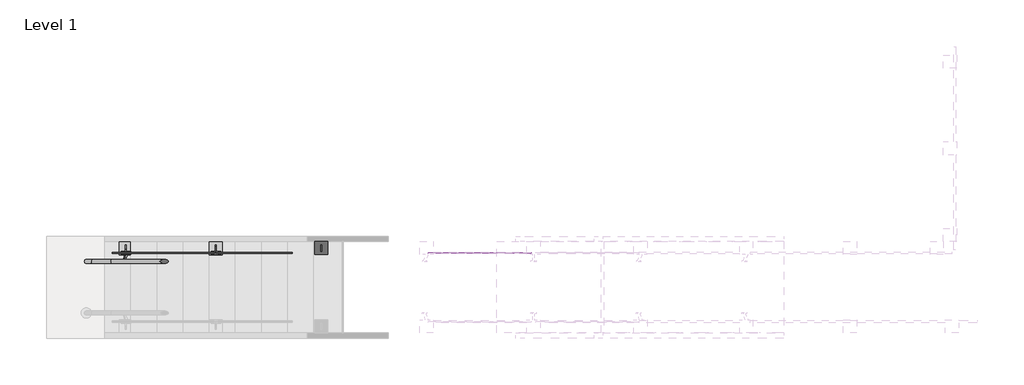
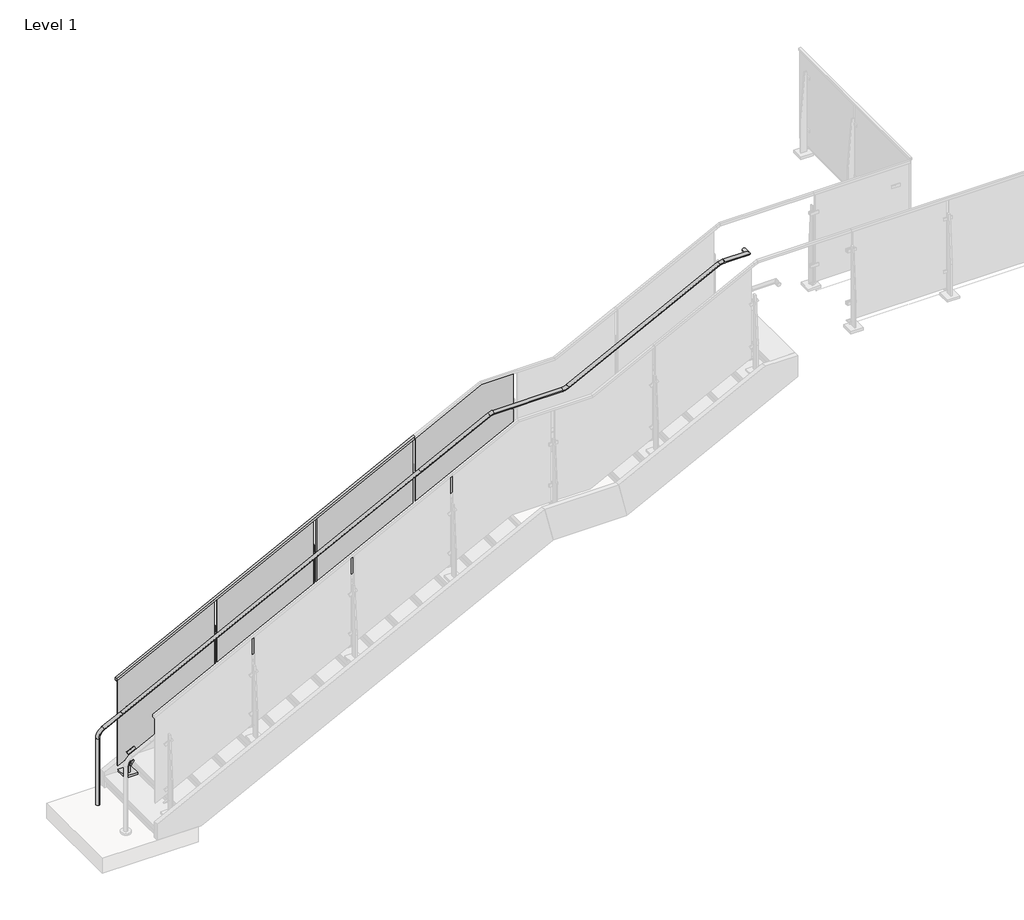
# One storey, part 24 of 37: 2 railings.
"""IFC4 building model written with IfcOpenShell, lengths in millimetres."""

from ifc_helpers import new_model, si_unit, point, frame, frame_2d, origin, place, context, project, spatial, polyline, circle_curve, ellipse_curve, trimmed, segment, composite_curve, outline, extrude, faceted_brep, transform, mapped, element, save
from ifc_brep_helpers import plane_surface, cylinder_surface, revolved_surface, advanced_brep
from components import baluster_landing_panel_viva_solo_lower_standard_glass_54ab52bf

model = new_model("IFC4")

# Units and contexts
model_context = context("Model", 3, world=origin())
ifc_project = project(units=[si_unit("LENGTHUNIT", "METRE", prefix="MILLI")], contexts=[model_context])

# Site, building, storey
site = spatial("IfcSite", under=ifc_project)
building = spatial("IfcBuilding", under=site)
storey = spatial("IfcBuildingStorey", under=building, Name="Level 1", Elevation=0.0)

# Railings
placement = place(None, origin())
baluster_landing_panel_viva_solo_lower_standard_glass_shape = baluster_landing_panel_viva_solo_lower_standard_glass_54ab52bf(model_context)
element("IfcRailing", 1, ObjectType="Baluster-Landing-Panel-VIVA-SOLO-Lower : Standard_Glass", at=placement, inside=storey, context=model_context, shape_type="MappedRepresentation", body=[
    mapped(baluster_landing_panel_viva_solo_lower_standard_glass_shape, transform((5248.4872811, 4530.172149, 2120.3478261), x_axis=(0.0, -1.0, 0.0), y_axis=(1.0, 0.0, 0.0), z_axis=(0.0, 0.0, 1.0))),
])
element("IfcRailing", 2, ObjectType="VIVA-SOLO-Glass-Floor Mount-Stair_Left_Lower", at=placement, inside=storey, context=model_context, shape_type="SolidModel", body=[
    advanced_brep(
    [(8446.9515313, 4388.884649, 3758.1697243), (8446.9515313, 4426.984649, 3758.1697243), (8720.0015313, 4388.884649, 3758.1697243), (8681.9015313, 4426.984649, 3758.1697243), (8720.0015313, 4471.434649, 3758.1697243), (8681.9015313, 4471.434649, 3758.1697243)],
    [
        (0, 1, circle_curve(frame((8446.9515313, 4407.934649, 3758.1697243), z_axis=(-1.0, 0.0, 0.0), x_axis=(0.0, 1.0, 0.0)), 19.05)),
        (1, 0, circle_curve(frame((8446.9515313, 4407.934649, 3758.1697243), z_axis=(-1.0, 0.0, 0.0), x_axis=(0.0, 1.0, 0.0)), 19.05)),
        (0, 2),
        (2, 3, ellipse_curve(frame((8700.9515313, 4407.934649, 3758.1697243), z_axis=(-0.7071067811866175, -0.7071067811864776, 0.0), x_axis=(-0.7071067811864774, 0.7071067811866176, 0.0)), 26.9407684, 19.05)),
        (3, 1),
        (3, 2, ellipse_curve(frame((8700.9515313, 4407.934649, 3758.1697243), z_axis=(-0.7071067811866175, -0.7071067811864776, 0.0), x_axis=(-0.7071067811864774, 0.7071067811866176, 0.0)), 26.9407684, 19.05)),
        (4, 5, circle_curve(frame((8700.9515313, 4471.434649, 3758.1697243), z_axis=(0.0, 1.0, 0.0), x_axis=(-1.0, 0.0, 0.0)), 19.05)),
        (5, 4, circle_curve(frame((8700.9515313, 4471.434649, 3758.1697243), z_axis=(0.0, 1.0, 0.0), x_axis=(-1.0, 0.0, 0.0)), 19.05)),
        (2, 4),
        (5, 3),
    ],
    [
        plane_surface(frame((8446.9515313, 4407.934649, 3758.1697243), z_axis=(-1.0, 0.0, 0.0), x_axis=(0.0, 0.0, 1.0))),
        cylinder_surface(frame((8446.9515313, 4407.934649, 3758.1697243), z_axis=(-1.0, 0.0, 0.0), x_axis=(0.0, 1.0, 0.0)), 19.05),
        plane_surface(frame((8700.9515313, 4471.434649, 3758.1697243), z_axis=(0.0, 1.0, 0.0), x_axis=(0.0, 0.0, 1.0))),
        cylinder_surface(frame((8700.9515313, 4407.934649, 3758.1697243), z_axis=(0.0, -1.0, 0.0), x_axis=(-1.0, 0.0, 0.0)), 19.05),
    ],
    [
        (0, [[1, 2]]),
        (1, [[-1, 3, 4, 5]]),
        (1, [[-2, -5, 6, -3]]),
        (2, [[7, 8]]),
        (3, [[-4, 9, -8, 10]]),
        (3, [[-6, -10, -7, -9]]),
    ],
),
    extrude(outline(composite_curve([segment(trimmed(circle_curve(frame_2d((1837.6886407, 4407.934649)), 50.8), [point((1837.6886407, 4458.734649))], [point((1837.6886407, 4357.134649))], False, "CARTESIAN"), True, "CONTINUOUS"), segment(trimmed(circle_curve(frame_2d((1837.6886407, 4407.934649)), 50.8), [point((1837.6886407, 4357.134649))], [point((1837.6886407, 4458.734649))], False, "CARTESIAN"), True, "CONTINUOUS")], self_intersect=False)), frame((0.0, 0.0, -49.8141969), z_axis=(0.0, 0.0, 1.0), x_axis=(1.0, 0.0, 0.0)), (0.0, 0.0, 1.0), 19.05),
    advanced_brep(
    [(1837.6886407, 4388.884649, -30.7641969), (1837.6886407, 4426.984649, -30.7641969), (1837.6886407, 4388.884649, 742.5735715), (1837.6886407, 4426.984649, 742.5735715), (1893.1999897, 4426.984649, 833.1185672), (1893.1999897, 4388.884649, 833.1185672), (2087.6302628, 4388.884649, 932.0862566), (2087.6302628, 4426.984649, 932.0862566), (5237.2302628, 4388.884649, 2535.2760764), (5237.2302628, 4426.984649, 2535.2760764), (5969.5451433, 4388.884649, 2908.0344461), (5969.5451433, 4426.984649, 2908.0344461), (6015.6337944, 4426.984649, 2919.0894504), (6015.6337944, 4388.884649, 2919.0894504), (6738.8046315, 4388.884649, 2919.0894504), (6738.8046315, 4426.984649, 2919.0894504), (6802.1765267, 4426.984649, 2934.2900813), (6802.1765267, 4388.884649, 2934.2900813), (8399.0382648, 4388.884649, 3747.11472), (8399.0382648, 4426.984649, 3747.11472), (8445.1269158, 4426.984649, 3758.1697243), (8445.1269158, 4388.884649, 3758.1697243), (8446.9515313, 4388.884649, 3758.1697243), (8446.9515313, 4426.984649, 3758.1697243)],
    [
        (0, 1, circle_curve(frame((1837.6886407, 4407.934649, -30.7641969), z_axis=(0.0, 0.0, -1.0), x_axis=(0.0, 1.0, 0.0)), 19.05)),
        (1, 0, circle_curve(frame((1837.6886407, 4407.934649, -30.7641969), z_axis=(0.0, 0.0, -1.0), x_axis=(0.0, 1.0, 0.0)), 19.05)),
        (0, 2),
        (2, 3, circle_curve(frame((1837.6886407, 4407.934649, 742.5735715), z_axis=(0.0, 0.0, -1.0), x_axis=(0.0, 1.0, 0.0)), 19.05)),
        (3, 1),
        (3, 2, circle_curve(frame((1837.6886407, 4407.934649, 742.5735715), z_axis=(0.0, 0.0, -1.0), x_axis=(0.0, 1.0, 0.0)), 19.05)),
        (4, 3, circle_curve(frame((1939.2886407, 4426.984649, 742.5735715), z_axis=(0.0, -1.0, 0.0), x_axis=(-0.9999999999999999, 0.0, 0.0)), 101.6)),
        (2, 5, circle_curve(frame((1939.2886407, 4388.884649, 742.5735715), z_axis=(0.0, 1.0, 0.0), x_axis=(-0.9999999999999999, 0.0, 0.0)), 101.6)),
        (5, 4, circle_curve(frame((1893.1999897, 4407.934649, 833.1185672), z_axis=(-0.8911909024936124, 0.0, -0.45362845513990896), x_axis=(0.0, 0.9999999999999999, 0.0)), 19.05)),
        (4, 5, circle_curve(frame((1893.1999897, 4407.934649, 833.1185672), z_axis=(-0.8911909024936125, 0.0, -0.45362845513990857), x_axis=(0.0, 0.9999999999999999, 0.0)), 19.05)),
        (5, 6),
        (6, 7, circle_curve(frame((2087.6302628, 4407.934649, 932.0862566), z_axis=(-0.8911909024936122, 0.0, -0.4536284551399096), x_axis=(0.0, 1.0, 0.0)), 19.05)),
        (7, 4),
        (7, 6, circle_curve(frame((2087.6302628, 4407.934649, 932.0862566), z_axis=(-0.8911909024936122, 0.0, -0.4536284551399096), x_axis=(0.0, 1.0, 0.0)), 19.05)),
        (6, 8),
        (8, 9, circle_curve(frame((5237.2302628, 4407.934649, 2535.2760764), z_axis=(-0.8911909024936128, 0.0, -0.4536284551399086), x_axis=(0.0, 1.0, 0.0)), 19.05)),
        (9, 7),
        (9, 8, circle_curve(frame((5237.2302628, 4407.934649, 2535.2760764), z_axis=(-0.8911909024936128, 0.0, -0.4536284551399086), x_axis=(0.0, 1.0, 0.0)), 19.05)),
        (8, 10),
        (10, 11, circle_curve(frame((5969.5451433, 4407.934649, 2908.0344461), z_axis=(-0.8911909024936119, 0.0, -0.45362845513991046), x_axis=(0.0, 1.0, 0.0)), 19.05)),
        (11, 9),
        (11, 10, circle_curve(frame((5969.5451433, 4407.934649, 2908.0344461), z_axis=(-0.8911909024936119, 0.0, -0.45362845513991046), x_axis=(0.0, 1.0, 0.0)), 19.05)),
        (12, 13, circle_curve(frame((6015.6337944, 4407.934649, 2919.0894504), z_axis=(1.0, 0.0, 0.0), x_axis=(0.0, 1.0, 0.0)), 19.05)),
        (13, 14),
        (14, 15, circle_curve(frame((6738.8046315, 4407.934649, 2919.0894504), z_axis=(-1.0, 0.0, 0.0), x_axis=(0.0, 1.0, 0.0)), 19.05)),
        (15, 12),
        (13, 12, circle_curve(frame((6015.6337944, 4407.934649, 2919.0894504), z_axis=(1.0, 0.0, 0.0), x_axis=(0.0, 1.0, 0.0)), 19.05)),
        (15, 14, circle_curve(frame((6738.8046315, 4407.934649, 2919.0894504), z_axis=(-1.0, 0.0, 0.0), x_axis=(0.0, 1.0, 0.0)), 19.05)),
        (16, 15, circle_curve(frame((6738.8046315, 4426.984649, 3058.7894504), z_axis=(0.0, 1.0, 0.0), x_axis=(0.0, 0.0, -0.9999999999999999)), 139.7)),
        (14, 17, circle_curve(frame((6738.8046315, 4388.884649, 3058.7894504), z_axis=(0.0, -1.0, 0.0), x_axis=(0.0, 0.0, -0.9999999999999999)), 139.7)),
        (17, 16, circle_curve(frame((6802.1765267, 4407.934649, 2934.2900813), z_axis=(-0.8911909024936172, 0.0, -0.45362845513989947), x_axis=(0.0, 0.9999999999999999, 0.0)), 19.05)),
        (16, 17, circle_curve(frame((6802.1765267, 4407.934649, 2934.2900813), z_axis=(-0.8911909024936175, 0.0, -0.4536284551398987), x_axis=(0.0, 0.9999999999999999, 0.0)), 19.05)),
        (17, 18),
        (18, 19, circle_curve(frame((8399.0382648, 4407.934649, 3747.11472), z_axis=(-0.8911909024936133, 0.0, -0.45362845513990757), x_axis=(0.0, 1.0, 0.0)), 19.05)),
        (19, 16),
        (19, 18, circle_curve(frame((8399.0382648, 4407.934649, 3747.11472), z_axis=(-0.8911909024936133, 0.0, -0.45362845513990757), x_axis=(0.0, 1.0, 0.0)), 19.05)),
        (20, 19, circle_curve(frame((8445.1269158, 4426.984649, 3656.5697243), z_axis=(0.0, -1.0, 0.0), x_axis=(-0.4536284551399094, 0.0, 0.8911909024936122)), 101.6)),
        (18, 21, circle_curve(frame((8445.1269158, 4388.884649, 3656.5697243), z_axis=(0.0, 1.0, 0.0), x_axis=(-0.4536284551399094, 0.0, 0.8911909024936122)), 101.6)),
        (21, 20, circle_curve(frame((8445.1269158, 4407.934649, 3758.1697243), z_axis=(-1.0, 0.0, 0.0), x_axis=(0.0, 1.0, 0.0)), 19.05)),
        (20, 21, circle_curve(frame((8445.1269158, 4407.934649, 3758.1697243), z_axis=(-1.0, 0.0, 0.0), x_axis=(0.0, 1.0, 0.0)), 19.05)),
        (22, 23, circle_curve(frame((8446.9515313, 4407.934649, 3758.1697243), z_axis=(1.0, 0.0, 0.0), x_axis=(0.0, 1.0, 0.0)), 19.05)),
        (23, 22, circle_curve(frame((8446.9515313, 4407.934649, 3758.1697243), z_axis=(1.0, 0.0, 0.0), x_axis=(0.0, 1.0, 0.0)), 19.05)),
        (21, 22),
        (23, 20),
        (12, 11, circle_curve(frame((6015.6337944, 4426.984649, 2817.4894504), z_axis=(0.0, -1.0, 0.0), x_axis=(-0.4536284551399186, 0.0, 0.8911909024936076)), 101.6)),
        (10, 13, circle_curve(frame((6015.6337944, 4388.884649, 2817.4894504), z_axis=(0.0, 1.0, 0.0), x_axis=(-0.4536284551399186, 0.0, 0.8911909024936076)), 101.6)),
    ],
    [
        plane_surface(frame((1818.6386407, 4369.834649, -30.7641969), z_axis=(0.0, 0.0, -1.0), x_axis=(1.0, 0.0, 0.0))),
        cylinder_surface(frame((1837.6886407, 4407.934649, -30.7641969), z_axis=(0.0, 0.0, -1.0), x_axis=(0.0, 1.0, 0.0)), 19.05),
        revolved_surface(trimmed(ellipse_curve(frame((1837.6886407, 4407.934649, 742.5735715), z_axis=(0.0, 0.0, -0.9999999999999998), x_axis=(0.0, 0.9999999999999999, 0.0)), 19.05, 19.05), [point((1837.6886407, 4388.884649, 742.5735715))], [point((1837.6886407, 4426.984649, 742.5735715))], True, "CARTESIAN"), (1939.2886407, 4407.934649, 742.5735715), (0.0, 0.9999999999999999, 0.0)),
        revolved_surface(trimmed(ellipse_curve(frame((1837.6886407, 4407.934649, 742.5735715), z_axis=(0.0, 0.0, -0.9999999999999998), x_axis=(0.0, 0.9999999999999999, 0.0)), 19.05, 19.05), [point((1837.6886407, 4426.984649, 742.5735715))], [point((1837.6886407, 4388.884649, 742.5735715))], True, "CARTESIAN"), (1939.2886407, 4407.934649, 742.5735715), (0.0, 0.9999999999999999, 0.0)),
        cylinder_surface(frame((1893.1999897, 4407.934649, 833.1185672), z_axis=(-0.8911909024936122, 0.0, -0.4536284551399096), x_axis=(0.0, 1.0, 0.0)), 19.05),
        cylinder_surface(frame((2087.6302628, 4407.934649, 932.0862566), z_axis=(-0.8911909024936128, 0.0, -0.4536284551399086), x_axis=(0.0, 1.0, 0.0)), 19.05),
        cylinder_surface(frame((5237.2302628, 4407.934649, 2535.2760764), z_axis=(-0.8911909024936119, 0.0, -0.45362845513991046), x_axis=(0.0, 1.0, 0.0)), 19.05),
        cylinder_surface(frame((6015.6337944, 4407.934649, 2919.0894504), z_axis=(-1.0, 0.0, 0.0), x_axis=(0.0, 1.0, 0.0)), 19.05),
        revolved_surface(trimmed(ellipse_curve(frame((6738.8046315, 4407.934649, 2919.0894504), z_axis=(-0.9999999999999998, 0.0, 0.0), x_axis=(0.0, 0.9999999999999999, 0.0)), 19.05, 19.05), [point((6738.8046315, 4388.884649, 2919.0894504))], [point((6738.8046315, 4426.984649, 2919.0894504))], True, "CARTESIAN"), (6738.8046315, 4407.934649, 3058.7894504), (0.0, -0.9999999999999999, 0.0)),
        revolved_surface(trimmed(ellipse_curve(frame((6738.8046315, 4407.934649, 2919.0894504), z_axis=(-0.9999999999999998, 0.0, 0.0), x_axis=(0.0, 0.9999999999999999, 0.0)), 19.05, 19.05), [point((6738.8046315, 4426.984649, 2919.0894504))], [point((6738.8046315, 4388.884649, 2919.0894504))], True, "CARTESIAN"), (6738.8046315, 4407.934649, 3058.7894504), (0.0, -0.9999999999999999, 0.0)),
        cylinder_surface(frame((6802.1765267, 4407.934649, 2934.2900813), z_axis=(-0.8911909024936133, 0.0, -0.45362845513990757), x_axis=(0.0, 1.0, 0.0)), 19.05),
        revolved_surface(trimmed(ellipse_curve(frame((8399.0382648, 4407.934649, 3747.11472), z_axis=(-0.8911909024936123, 0.0, -0.4536284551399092), x_axis=(0.0, 1.0, 0.0)), 19.05, 19.05), [point((8399.0382648, 4388.884649, 3747.11472))], [point((8399.0382648, 4426.984649, 3747.11472))], True, "CARTESIAN"), (8445.1269158, 4407.934649, 3656.5697243), (0.0, 1.0, 0.0)),
        revolved_surface(trimmed(ellipse_curve(frame((8399.0382648, 4407.934649, 3747.11472), z_axis=(-0.8911909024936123, 0.0, -0.4536284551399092), x_axis=(0.0, 1.0, 0.0)), 19.05, 19.05), [point((8399.0382648, 4426.984649, 3747.11472))], [point((8399.0382648, 4388.884649, 3747.11472))], True, "CARTESIAN"), (8445.1269158, 4407.934649, 3656.5697243), (0.0, 1.0, 0.0)),
        plane_surface(frame((8446.9515313, 4407.934649, 3777.2197243), z_axis=(1.0, 0.0, 0.0), x_axis=(0.0, 1.0, 0.0))),
        cylinder_surface(frame((8445.1269158, 4407.934649, 3758.1697243), z_axis=(-1.0, 0.0, 0.0), x_axis=(0.0, 1.0, 0.0)), 19.05),
        revolved_surface(trimmed(ellipse_curve(frame((5969.5451433, 4407.934649, 2908.0344461), z_axis=(-0.8911909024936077, 0.0, -0.4536284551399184), x_axis=(0.0, 1.0, 0.0)), 19.05, 19.05), [point((5969.5451433, 4388.884649, 2908.0344461))], [point((5969.5451433, 4426.984649, 2908.0344461))], True, "CARTESIAN"), (6015.6337944, 4407.934649, 2817.4894504), (0.0, 1.0, 0.0)),
        revolved_surface(trimmed(ellipse_curve(frame((5969.5451433, 4407.934649, 2908.0344461), z_axis=(-0.8911909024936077, 0.0, -0.4536284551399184), x_axis=(0.0, 1.0, 0.0)), 19.05, 19.05), [point((5969.5451433, 4426.984649, 2908.0344461))], [point((5969.5451433, 4388.884649, 2908.0344461))], True, "CARTESIAN"), (6015.6337944, 4407.934649, 2817.4894504), (0.0, 1.0, 0.0)),
    ],
    [
        (0, [[1, 2]]),
        (1, [[-1, 3, 4, 5]]),
        (1, [[-2, -5, 6, -3]]),
        (2, [[7, -4, 8, 9]]),
        (3, [[-8, -6, -7, 10]]),
        (4, [[-9, 11, 12, 13]]),
        (4, [[-10, -13, 14, -11]]),
        (5, [[-12, 15, 16, 17]]),
        (5, [[-14, -17, 18, -15]]),
        (6, [[-16, 19, 20, 21]]),
        (6, [[-18, -21, 22, -19]]),
        (7, [[23, 24, 25, 26]]),
        (7, [[27, -26, 28, -24]]),
        (8, [[29, -25, 30, 31]]),
        (9, [[-30, -28, -29, 32]]),
        (10, [[-31, 33, 34, 35]]),
        (10, [[-32, -35, 36, -33]]),
        (11, [[37, -34, 38, 39]]),
        (12, [[-38, -36, -37, 40]]),
        (13, [[41, 42]]),
        (14, [[-39, 43, -42, 44]]),
        (14, [[-40, -44, -41, -43]]),
        (15, [[45, -20, 46, -23]]),
        (16, [[-46, -22, -45, -27]]),
    ],
),
    faceted_brep([(2078.9886407, 4482.547149, 1279.2634433), (2078.9886407, 4504.772149, 1279.2634433), (2078.9886407, 4504.772149, 1250.7622547), (2078.9886407, 4500.009649, 1250.7622547), (2078.9886407, 4500.009649, 1273.9194705), (2078.9886407, 4487.309649, 1273.9194705), (2078.9886407, 4487.309649, 1250.7622547), (2078.9886407, 4482.547149, 1250.7622547), (5228.5886407, 4482.547149, 2882.453263), (5228.5886407, 4482.547149, 2853.9520744), (5228.5886407, 4487.309649, 2853.9520744), (5228.5886407, 4487.309649, 2877.1092902), (5228.5886407, 4500.009649, 2877.1092902), (5228.5886407, 4500.009649, 2853.9520744), (5228.5886407, 4504.772149, 2853.9520744), (5228.5886407, 4504.772149, 2882.453263)], [[[0, 1, 2, 3, 4, 5, 6, 7]], [[8, 9, 10, 11, 12, 13, 14, 15]], [[1, 0, 8, 15]], [[2, 1, 15, 14]], [[3, 2, 14, 13]], [[4, 3, 13, 12]], [[5, 4, 12, 11]], [[6, 5, 11, 10]], [[7, 6, 10, 9]], [[0, 7, 9, 8]]]),
    extrude(outline(polyline([(2868.4999629, 5212.038354), (2351.3419566, 4196.038354), (1351.5601273, 4196.038354), (1868.7181336, 5212.038354), (2868.4999629, 5212.038354)])), frame((0.0, 4487.309649, 0.0), z_axis=(0.0, 1.0, 0.0), x_axis=(0.0, 0.0, 1.0)), (0.0, 0.0, 1.0), 12.7),
    extrude(outline(polyline([(-12.7, 0.0), (0.0, 0.0), (0.0, -3.175), (58.7375, -34.925), (61.9125, -34.925), (61.9125, -65.0875), (50.8, -65.0875), (-12.7, -3.175), (-12.7, 0.0)])), frame((4151.1015107, 4415.872149, 1962.9612907), z_axis=(0.8987940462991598, 0.0, 0.4383711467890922), x_axis=(0.0, 1.0, 0.0)), (0.0, 0.0, 1.0), 12.7),
    extrude(outline(polyline([(4509.534649, 2017.8566565), (4534.934649, 2017.8566565), (4573.034649, 1484.4566565), (4573.034649, 1192.6956522), (4509.534649, 1192.6956522), (4509.534649, 2017.8566565)])), frame((4172.3719741, 0.0, 0.0), z_axis=(1.0, 0.0, 0.0), x_axis=(0.0, 1.0, 0.0)), (0.0, 0.0, 1.0), 12.7),
    extrude(outline(polyline([(0.0, 88.9000001), (9.525, 88.9000001), (9.525, 0.0), (0.0, 0.0), (0.0, 88.9000001)])), frame((4225.6406874, 4500.009649, 1488.6791682), z_axis=(-0.4383711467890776, 0.0, 0.8987940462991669), x_axis=(0.0, 1.0, 0.0)), (0.0, 0.0, 1.0), 31.75),
    extrude(outline(polyline([(0.0, 88.9000001), (9.525, 88.9000001), (9.525, 0.0), (0.0, 0.0), (0.0, 88.9000001)])), frame((4225.6406874, 4477.784649, 1926.0168697), z_axis=(-0.4383711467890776, 0.0, 0.8987940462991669), x_axis=(0.0, 1.0, 0.0)), (0.0, 0.0, 1.0), 31.75),
    extrude(outline(polyline([(0.0, 88.9000001), (9.525, 88.9000001), (9.525, 0.0), (0.0, 0.0), (0.0, 88.9000001)])), frame((4225.6406874, 4500.009649, 1926.0168697), z_axis=(-0.4383711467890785, 0.0, 0.8987940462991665), x_axis=(0.0, 1.0, 0.0)), (0.0, 0.0, 1.0), 31.75),
    extrude(outline(polyline([(0.0, 88.9000001), (9.525, 88.9000001), (9.525, 0.0), (0.0, 0.0), (0.0, 88.9000001)])), frame((4225.6406874, 4477.784649, 1488.6791682), z_axis=(-0.4383711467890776, 0.0, 0.8987940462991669), x_axis=(0.0, 1.0, 0.0)), (0.0, 0.0, 1.0), 31.75),
    extrude(outline(polyline([(1355.1904832, 4214.4920728), (1360.8978254, 4211.708416), (1321.9266304, 4131.8056253), (1316.2192882, 4134.5892821), (1316.0081299, 4184.1474271), (1355.1904832, 4214.4920728)])), frame((0.0, 4487.309649, 0.0), z_axis=(0.0, 1.0, 0.0), x_axis=(0.0, 0.0, 1.0)), (0.0, 0.0, 1.0), 12.7),
    extrude(outline(composite_curve([segment(trimmed(circle_curve(frame_2d((24.5007934, -6.6985914)), 25.4), [point((0.0, 0.0))], [point((6.4034747, 11.1240644))], False, "CARTESIAN"), True, "CONTINUOUS"), segment(polyline([(6.4034747, 11.1240644), (8.7901893, 9.7460941)]), True, "CONTINUOUS"), segment(trimmed(circle_curve(frame_2d((26.8875079, -8.0765616)), 25.4), [point((8.7901893, 9.7460941))], [point((2.8057896, 0.0))], True, "CARTESIAN"), True, "CONTINUOUS"), segment(polyline([(2.8057896, 0.0), (0.0, 0.0)]), True, "CONTINUOUS")], self_intersect=False)), frame((4135.1803931, 4415.9713954, 1952.1480919), z_axis=(0.8987940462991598, 0.0, 0.4383711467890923), x_axis=(-0.37964054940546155, -0.5000000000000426, 0.7783784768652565)), (0.0, 0.0, 1.0), 50.8),
    extrude(outline(polyline([(4244.6032241, 4475.403399), (4112.8407241, 4475.403399), (4112.8407241, 4607.165899), (4244.6032241, 4607.165899), (4244.6032241, 4475.403399)])), frame((0.0, 0.0, 1192.6956522), z_axis=(0.0, 0.0, 1.0), x_axis=(1.0, 0.0, 0.0)), (0.0, 0.0, 1.0), 25.4),
    extrude(outline(composite_curve([segment(trimmed(circle_curve(frame_2d((1484.5238705, 4178.73015)), 6.35), [point((1484.5238705, 4185.08015))], [point((1484.5238705, 4172.38015))], False, "CARTESIAN"), True, "CONTINUOUS"), segment(trimmed(circle_curve(frame_2d((1484.5238705, 4178.73015)), 6.35), [point((1484.5238705, 4172.38015))], [point((1484.5238705, 4185.08015))], False, "CARTESIAN"), True, "CONTINUOUS")], self_intersect=False)), frame((0.0, 4487.309649, 0.0), z_axis=(0.0, 1.0, 0.0), x_axis=(0.0, 0.0, 1.0)), (0.0, 0.0, 1.0), 12.7),
    extrude(outline(composite_curve([segment(trimmed(circle_curve(frame_2d((1920.7996277, 4178.73015)), 6.35), [point((1920.7996277, 4185.08015))], [point((1920.7996277, 4172.38015))], False, "CARTESIAN"), True, "CONTINUOUS"), segment(trimmed(circle_curve(frame_2d((1920.7996277, 4178.73015)), 6.35), [point((1920.7996277, 4172.38015))], [point((1920.7996277, 4185.08015))], False, "CARTESIAN"), True, "CONTINUOUS")], self_intersect=False)), frame((0.0, 4487.309649, 0.0), z_axis=(0.0, 1.0, 0.0), x_axis=(0.0, 0.0, 1.0)), (0.0, 0.0, 1.0), 12.7),
    extrude(outline(composite_curve([segment(trimmed(circle_curve(frame_2d((1327.2047294, 4178.73015)), 11.1125), [point((1327.2047294, 4189.84265))], [point((1327.2047294, 4167.61765))], False, "CARTESIAN"), True, "CONTINUOUS"), segment(trimmed(circle_curve(frame_2d((1327.2047294, 4178.73015)), 11.1125), [point((1327.2047294, 4167.61765))], [point((1327.2047294, 4189.84265))], False, "CARTESIAN"), True, "CONTINUOUS")], self_intersect=False)), frame((0.0, 4484.134649, 0.0), z_axis=(0.0, 1.0, 0.0), x_axis=(0.0, 0.0, 1.0)), (0.0, 0.0, 1.0), 25.4),
    extrude(outline(polyline([(2334.1033564, 4162.1716873), (1816.94535, 3146.1716873), (821.4731707, 3146.1716873), (1338.6311771, 4162.1716873), (2334.1033564, 4162.1716873)])), frame((0.0, 4487.309649, 0.0), z_axis=(0.0, 1.0, 0.0), x_axis=(0.0, 0.0, 1.0)), (0.0, 0.0, 1.0), 12.7),
    extrude(outline(polyline([(-12.7, 0.0), (0.0, 0.0), (0.0, -3.175), (58.7375, -34.9249999), (61.9125, -34.9249999), (61.9125, -65.0875), (50.8, -65.0875), (-12.7, -3.175), (-12.7, 0.0)])), frame((3101.234844, 4415.872149, 1428.5646841), z_axis=(0.8987940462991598, 0.0, 0.4383711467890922), x_axis=(0.0, 1.0, 0.0)), (0.0, 0.0, 1.0), 12.7),
    extrude(outline(polyline([(4509.534649, 1483.4600499), (4534.934649, 1483.4600499), (4573.034649, 950.0600499), (4573.034649, 662.6086957), (4509.534649, 662.6086957), (4509.534649, 1483.4600499)])), frame((3122.5053074, 0.0, 0.0), z_axis=(1.0, 0.0, 0.0), x_axis=(0.0, 1.0, 0.0)), (0.0, 0.0, 1.0), 12.7),
    extrude(outline(polyline([(0.0, 88.9), (9.525, 88.9), (9.525, 0.0), (0.0, 0.0), (0.0, 88.9)])), frame((3175.7740207, 4500.009649, 958.5922117), z_axis=(-0.4383711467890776, 0.0, 0.8987940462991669), x_axis=(0.0, 1.0, 0.0)), (0.0, 0.0, 1.0), 31.75),
    extrude(outline(polyline([(0.0, 88.9), (9.525, 88.9), (9.525, 0.0), (0.0, 0.0), (0.0, 88.9)])), frame((3175.7740207, 4477.784649, 1391.6202631), z_axis=(-0.4383711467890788, 0.0, 0.8987940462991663), x_axis=(0.0, 1.0, 0.0)), (0.0, 0.0, 1.0), 31.75),
    extrude(outline(polyline([(0.0, 88.9), (9.525, 88.9), (9.525, 0.0), (0.0, 0.0), (0.0, 88.9)])), frame((3175.7740207, 4500.009649, 1391.6202631), z_axis=(-0.4383711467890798, 0.0, 0.8987940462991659), x_axis=(0.0, 1.0, 0.0)), (0.0, 0.0, 1.0), 31.75),
    extrude(outline(polyline([(0.0, 88.9), (9.525, 88.9), (9.525, 0.0), (0.0, 0.0), (0.0, 88.9)])), frame((3175.7740207, 4477.784649, 958.5922117), z_axis=(-0.4383711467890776, 0.0, 0.8987940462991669), x_axis=(0.0, 1.0, 0.0)), (0.0, 0.0, 1.0), 31.75),
    extrude(outline(polyline([(825.1035266, 3164.6254061), (830.8108688, 3161.8417493), (791.8396739, 3081.9389586), (786.1323317, 3084.7226154), (785.9211734, 3134.2807604), (825.1035266, 3164.6254061)])), frame((0.0, 4487.309649, 0.0), z_axis=(0.0, 1.0, 0.0), x_axis=(0.0, 0.0, 1.0)), (0.0, 0.0, 1.0), 12.7),
    extrude(outline(composite_curve([segment(trimmed(circle_curve(frame_2d((24.5007933, -6.6985913)), 25.4), [point((0.0, 0.0))], [point((6.4034746, 11.1240644))], False, "CARTESIAN"), True, "CONTINUOUS"), segment(polyline([(6.4034746, 11.1240644), (8.7901892, 9.7460941)]), True, "CONTINUOUS"), segment(trimmed(circle_curve(frame_2d((26.8875078, -8.0765616)), 25.4), [point((8.7901892, 9.7460941))], [point((2.8057896, 0.0))], True, "CARTESIAN"), True, "CONTINUOUS"), segment(polyline([(2.8057896, 0.0), (0.0, 0.0)]), True, "CONTINUOUS")], self_intersect=False)), frame((3085.3137265, 4415.9713954, 1417.7514854), z_axis=(0.8987940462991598, 0.0, 0.4383711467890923), x_axis=(-0.37964054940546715, -0.5000000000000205, 0.7783784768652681)), (0.0, 0.0, 1.0), 50.8),
    extrude(outline(polyline([(3194.7365574, 4475.403399), (3062.9740574, 4475.403399), (3062.9740574, 4607.165899), (3194.7365574, 4607.165899), (3194.7365574, 4475.403399)])), frame((0.0, 0.0, 662.6086957), z_axis=(0.0, 0.0, 1.0), x_axis=(1.0, 0.0, 0.0)), (0.0, 0.0, 1.0), 25.4),
    extrude(outline(composite_curve([segment(trimmed(circle_curve(frame_2d((954.436914, 3128.8634834)), 6.35), [point((954.436914, 3135.2134834))], [point((954.436914, 3122.5134834))], False, "CARTESIAN"), True, "CONTINUOUS"), segment(trimmed(circle_curve(frame_2d((954.436914, 3128.8634834)), 6.35), [point((954.436914, 3122.5134834))], [point((954.436914, 3135.2134834))], False, "CARTESIAN"), True, "CONTINUOUS")], self_intersect=False)), frame((0.0, 4487.309649, 0.0), z_axis=(0.0, 1.0, 0.0), x_axis=(0.0, 0.0, 1.0)), (0.0, 0.0, 1.0), 12.7),
    extrude(outline(composite_curve([segment(trimmed(circle_curve(frame_2d((1386.4030211, 3128.8634834)), 6.35), [point((1386.4030211, 3135.2134834))], [point((1386.4030211, 3122.5134834))], False, "CARTESIAN"), True, "CONTINUOUS"), segment(trimmed(circle_curve(frame_2d((1386.4030211, 3128.8634834)), 6.35), [point((1386.4030211, 3122.5134834))], [point((1386.4030211, 3135.2134834))], False, "CARTESIAN"), True, "CONTINUOUS")], self_intersect=False)), frame((0.0, 4487.309649, 0.0), z_axis=(0.0, 1.0, 0.0), x_axis=(0.0, 0.0, 1.0)), (0.0, 0.0, 1.0), 12.7),
    extrude(outline(composite_curve([segment(trimmed(circle_curve(frame_2d((797.1177729, 3128.8634834)), 11.1125), [point((797.1177729, 3139.9759834))], [point((797.1177729, 3117.7509834))], False, "CARTESIAN"), True, "CONTINUOUS"), segment(trimmed(circle_curve(frame_2d((797.1177729, 3128.8634834)), 11.1125), [point((797.1177729, 3117.7509834))], [point((797.1177729, 3139.9759834))], False, "CARTESIAN"), True, "CONTINUOUS")], self_intersect=False)), frame((0.0, 4484.134649, 0.0), z_axis=(0.0, 1.0, 0.0), x_axis=(0.0, 0.0, 1.0)), (0.0, 0.0, 1.0), 25.4),
    extrude(outline(polyline([(1799.7067498, 3112.3050207), (1282.5487434, 2096.3050207), (291.3862142, 2096.3050207), (808.5442206, 3112.3050207), (1799.7067498, 3112.3050207)])), frame((0.0, 4487.309649, 0.0), z_axis=(0.0, 1.0, 0.0), x_axis=(0.0, 0.0, 1.0)), (0.0, 0.0, 1.0), 12.7),
    extrude(outline(polyline([(-12.7, 0.0), (0.0, 0.0), (0.0, -3.175), (58.7375, -34.925), (61.9125, -34.925), (61.9125, -65.0875), (50.8, -65.0875), (-12.7, -3.175), (-12.7, 0.0)])), frame((2203.7681774, 4415.872149, 971.7417785), z_axis=(0.8987940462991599, 0.0, 0.4383711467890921), x_axis=(0.0, 1.0, 0.0)), (0.0, 0.0, 1.0), 12.7),
    extrude(outline(polyline([(4509.534649, 1026.6371443), (4534.934649, 1026.6371443), (4573.034649, 493.2371443), (4573.034649, 132.5217391), (4509.534649, 132.5217391), (4509.534649, 1026.6371443)])), frame((2225.0386407, 0.0, 0.0), z_axis=(1.0, 0.0, 0.0), x_axis=(0.0, 1.0, 0.0)), (0.0, 0.0, 1.0), 12.7),
    extrude(outline(polyline([(0.0, 88.9), (9.525, 88.9), (9.525, 0.0), (0.0, 0.0), (0.0, 88.9)])), frame((2278.307354, 4500.009649, 428.5052552), z_axis=(-0.4383711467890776, 0.0, 0.8987940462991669), x_axis=(0.0, 1.0, 0.0)), (0.0, 0.0, 1.0), 31.75),
    extrude(outline(polyline([(0.0, 88.9), (9.525, 88.9), (9.525, 0.0), (0.0, 0.0), (0.0, 88.9)])), frame((2278.307354, 4477.784649, 934.7973575), z_axis=(-0.4383711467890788, 0.0, 0.8987940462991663), x_axis=(0.0, 1.0, 0.0)), (0.0, 0.0, 1.0), 31.75),
    extrude(outline(polyline([(0.0, 88.9), (9.525, 88.9), (9.525, 0.0), (0.0, 0.0), (0.0, 88.9)])), frame((2278.307354, 4500.009649, 934.7973575), z_axis=(-0.4383711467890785, 0.0, 0.8987940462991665), x_axis=(0.0, 1.0, 0.0)), (0.0, 0.0, 1.0), 31.75),
    extrude(outline(polyline([(0.0, 88.9), (9.525, 88.9), (9.525, 0.0), (0.0, 0.0), (0.0, 88.9)])), frame((2278.307354, 4477.784649, 428.5052552), z_axis=(-0.4383711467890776, 0.0, 0.8987940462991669), x_axis=(0.0, 1.0, 0.0)), (0.0, 0.0, 1.0), 31.75),
    extrude(outline(polyline([(295.0165701, 2267.1587394), (300.7239123, 2264.3750827), (261.7527174, 2184.4722919), (256.0453752, 2187.2559487), (255.8342168, 2236.8140938), (295.0165701, 2267.1587394)])), frame((0.0, 4487.309649, 0.0), z_axis=(0.0, 1.0, 0.0), x_axis=(0.0, 0.0, 1.0)), (0.0, 0.0, 1.0), 12.7),
    extrude(outline(composite_curve([segment(trimmed(circle_curve(frame_2d((24.5007934, -6.6985914)), 25.4), [point((0.0, 0.0))], [point((6.4034747, 11.1240644))], False, "CARTESIAN"), True, "CONTINUOUS"), segment(polyline([(6.4034747, 11.1240644), (8.7901893, 9.7460941)]), True, "CONTINUOUS"), segment(trimmed(circle_curve(frame_2d((26.8875079, -8.0765616)), 25.4), [point((8.7901893, 9.7460941))], [point((2.8057896, 0.0))], True, "CARTESIAN"), True, "CONTINUOUS"), segment(polyline([(2.8057896, 0.0), (0.0, 0.0)]), True, "CONTINUOUS")], self_intersect=False)), frame((2187.8470598, 4415.9713954, 960.9285797), z_axis=(0.8987940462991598, 0.0, 0.4383711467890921), x_axis=(-0.3796405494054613, -0.500000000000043, 0.7783784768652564)), (0.0, 0.0, 1.0), 50.8),
    extrude(outline(polyline([(2297.2698907, 4475.403399), (2165.5073907, 4475.403399), (2165.5073907, 4607.165899), (2297.2698907, 4607.165899), (2297.2698907, 4475.403399)])), frame((0.0, 0.0, 132.5217391), z_axis=(0.0, 0.0, 1.0), x_axis=(1.0, 0.0, 0.0)), (0.0, 0.0, 1.0), 25.4),
    extrude(outline(composite_curve([segment(trimmed(circle_curve(frame_2d((424.3499574, 2231.3968167)), 6.35), [point((424.3499574, 2237.7468167))], [point((424.3499574, 2225.0468167))], False, "CARTESIAN"), True, "CONTINUOUS"), segment(trimmed(circle_curve(frame_2d((424.3499574, 2231.3968167)), 6.35), [point((424.3499574, 2225.0468167))], [point((424.3499574, 2237.7468167))], False, "CARTESIAN"), True, "CONTINUOUS")], self_intersect=False)), frame((0.0, 4487.309649, 0.0), z_axis=(0.0, 1.0, 0.0), x_axis=(0.0, 0.0, 1.0)), (0.0, 0.0, 1.0), 12.7),
    extrude(outline(composite_curve([segment(trimmed(circle_curve(frame_2d((929.5801155, 2231.3968167)), 6.35), [point((929.5801155, 2237.7468167))], [point((929.5801155, 2225.0468167))], False, "CARTESIAN"), True, "CONTINUOUS"), segment(trimmed(circle_curve(frame_2d((929.5801155, 2231.3968167)), 6.35), [point((929.5801155, 2225.0468167))], [point((929.5801155, 2237.7468167))], False, "CARTESIAN"), True, "CONTINUOUS")], self_intersect=False)), frame((0.0, 4487.309649, 0.0), z_axis=(0.0, 1.0, 0.0), x_axis=(0.0, 0.0, 1.0)), (0.0, 0.0, 1.0), 12.7),
    extrude(outline(composite_curve([segment(trimmed(circle_curve(frame_2d((267.0308163, 2231.3968167)), 11.1125), [point((267.0308163, 2242.5093167))], [point((267.0308163, 2220.2843167))], False, "CARTESIAN"), True, "CONTINUOUS"), segment(trimmed(circle_curve(frame_2d((267.0308163, 2231.3968167)), 11.1125), [point((267.0308163, 2220.2843167))], [point((267.0308163, 2242.5093167))], False, "CARTESIAN"), True, "CONTINUOUS")], self_intersect=False)), frame((0.0, 4484.134649, 0.0), z_axis=(0.0, 1.0, 0.0), x_axis=(0.0, 0.0, 1.0)), (0.0, 0.0, 1.0), 25.4),
])

save(model, "model.ifc")
